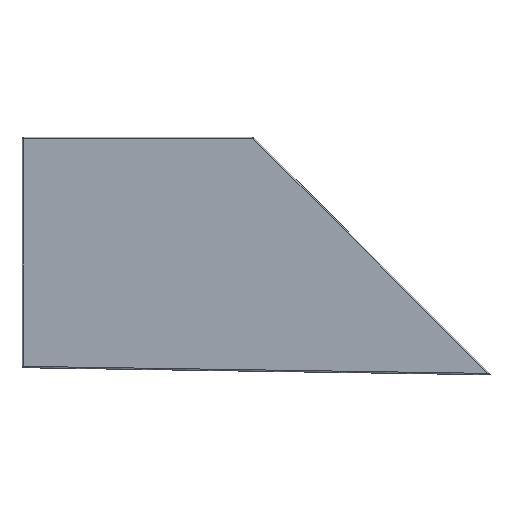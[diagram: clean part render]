
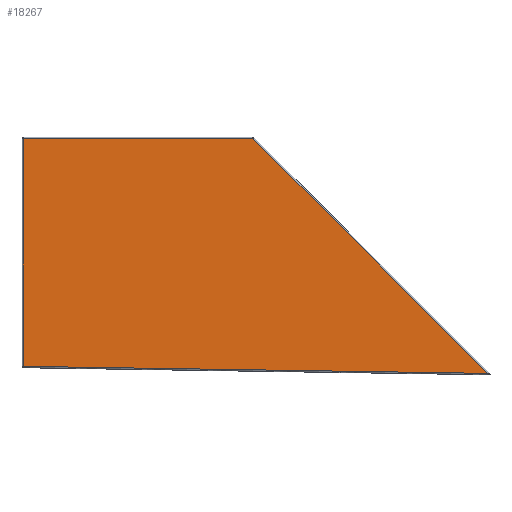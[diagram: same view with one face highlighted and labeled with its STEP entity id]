
A CAD part, top view. The second image highlights one B-rep face of the part: STEP entity #18267.
In plain terms, the highlighted planar face has unit normal (0, 0, 1).
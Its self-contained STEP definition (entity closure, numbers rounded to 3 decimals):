
#467 = ORIENTED_EDGE ( 'NONE', *, *, #21175, .T. ) ;
#924 = CARTESIAN_POINT ( 'NONE',  ( -42.5, 69.56, 3.25 ) ) ;
#1113 = VECTOR ( 'NONE', #12050, 1000. ) ;
#1439 = AXIS2_PLACEMENT_3D ( 'NONE', #4221, #4107, #9541 ) ;
#2058 = FACE_OUTER_BOUND ( 'NONE', #17735, .T. ) ;
#2920 = VERTEX_POINT ( 'NONE', #924 ) ;
#3563 = CARTESIAN_POINT ( 'NONE',  ( 0., 69.56, 3.25 ) ) ;
#4107 = DIRECTION ( 'NONE',  ( 0., 0., -1. ) ) ;
#4221 = CARTESIAN_POINT ( 'NONE',  ( 0., 0., 3.25 ) ) ;
#4852 = LINE ( 'NONE', #8459, #18687 ) ;
#6869 = CARTESIAN_POINT ( 'NONE',  ( -42.5, 0., 3.25 ) ) ;
#7272 = CARTESIAN_POINT ( 'NONE',  ( 40.004, 69.56, 3.25 ) ) ;
#8459 = CARTESIAN_POINT ( 'NONE',  ( -0.196, -12.967, 3.25 ) ) ;
#8692 = ORIENTED_EDGE ( 'NONE', *, *, #13447, .T. ) ;
#9541 = DIRECTION ( 'NONE',  ( -1., 0., 0. ) ) ;
#9616 = CARTESIAN_POINT ( 'NONE',  ( 54.782, 54.782, 3.25 ) ) ;
#10159 = DIRECTION ( 'NONE',  ( 0., -1., 0. ) ) ;
#11328 = DIRECTION ( 'NONE',  ( -0.707, 0.707, 0. ) ) ;
#11571 = VERTEX_POINT ( 'NONE', #7272 ) ;
#11767 = DIRECTION ( 'NONE',  ( 1., -0.015, 0. ) ) ;
#12050 = DIRECTION ( 'NONE',  ( -1., 0., 0. ) ) ;
#12288 = EDGE_CURVE ( 'NONE', #22203, #16767, #4852, .T. ) ;
#12715 = CARTESIAN_POINT ( 'NONE',  ( -42.5, -12.327, 3.25 ) ) ;
#13447 = EDGE_CURVE ( 'NONE', #16767, #11571, #18227, .T. ) ;
#14514 = PLANE ( 'NONE',  #1439 ) ;
#15344 = LINE ( 'NONE', #3563, #1113 ) ;
#15952 = CARTESIAN_POINT ( 'NONE',  ( 124.414, -14.85, 3.25 ) ) ;
#16767 = VERTEX_POINT ( 'NONE', #15952 ) ;
#16856 = LINE ( 'NONE', #6869, #18124 ) ;
#17083 = ORIENTED_EDGE ( 'NONE', *, *, #12288, .T. ) ;
#17735 = EDGE_LOOP ( 'NONE', ( #18523, #467, #17083, #8692 ) ) ;
#18124 = VECTOR ( 'NONE', #10159, 1000. ) ;
#18227 = LINE ( 'NONE', #9616, #21974 ) ;
#18267 = ADVANCED_FACE ( 'NONE', ( #2058 ), #14514, .F. ) ;
#18523 = ORIENTED_EDGE ( 'NONE', *, *, #18983, .T. ) ;
#18687 = VECTOR ( 'NONE', #11767, 1000. ) ;
#18983 = EDGE_CURVE ( 'NONE', #11571, #2920, #15344, .T. ) ;
#21175 = EDGE_CURVE ( 'NONE', #2920, #22203, #16856, .T. ) ;
#21974 = VECTOR ( 'NONE', #11328, 1000. ) ;
#22203 = VERTEX_POINT ( 'NONE', #12715 ) ;
